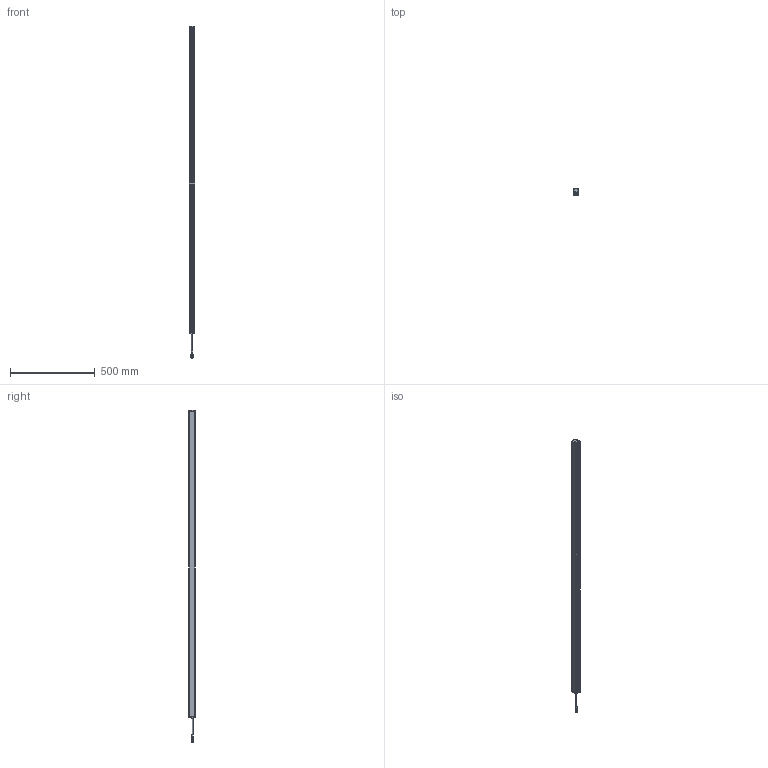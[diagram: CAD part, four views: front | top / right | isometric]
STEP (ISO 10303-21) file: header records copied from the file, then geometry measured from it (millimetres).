
FILE_DESCRIPTION((''),'2;1');
FILE_NAME('PRT0006','2026-03-31T16:46:51',('Administrator'),(''),'CREO PARAMETRIC BY PTC INC, 2016510','CREO PARAMETRIC BY PTC INC, 2016510','');
FILE_SCHEMA(('AUTOMOTIVE_DESIGN { 1 0 10303 214 1 1 1 1 }'));
Length unit declared in the file: millimetre
Products named in the file (1): PRT0006
Bounding box: 33 x 38 x 1961.9 mm (x, y, z)
Surface area: 392393.6 mm2 (no closed solid volume)
Topology: 0 solids, 12 shells, 794 faces, 2102 edges, 1328 vertices
Faces by surface type: plane 385, cylinder 227, extrusion 84, torus 34, sphere 32, cone 28, bspline 4
Entity records: 31150 total; most frequent: CARTESIAN_POINT 5878, ORIENTED_EDGE 4116, DIRECTION 3900, EDGE_CURVE 2058, VERTEX_POINT 1328, AXIS2_PLACEMENT_3D 1324, VECTOR 1252, LINE 1168
